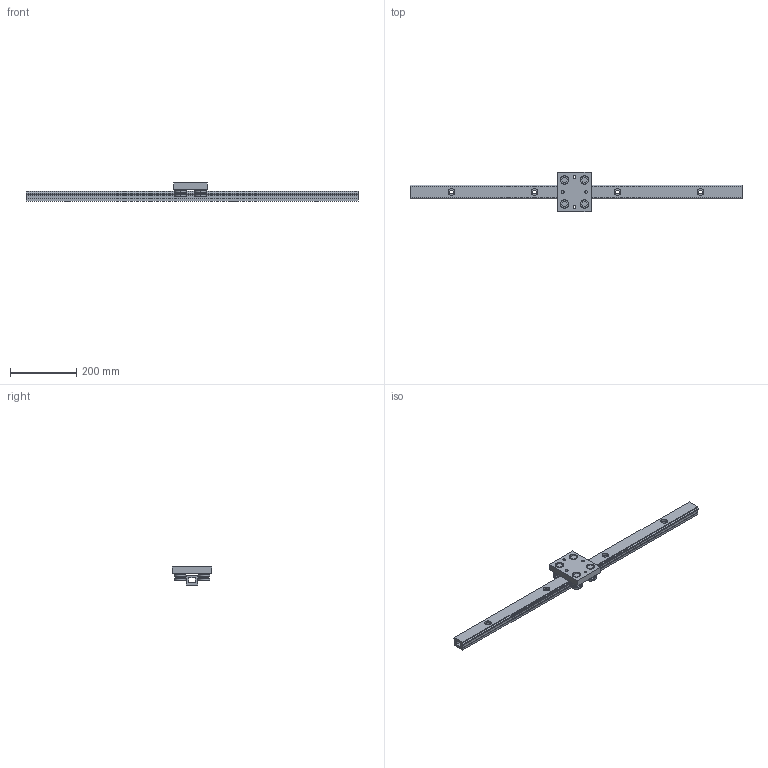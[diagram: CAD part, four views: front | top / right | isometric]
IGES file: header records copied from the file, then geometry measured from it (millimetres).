
Global section: file name: No Iges File Name specified; native system: AutoDesk Inventor R10; preprocessor: AutoDesk Inventor Iges Exporter R10; author: No Author specified; organization: No Organization specified; date: 20101224.114526; units: millimetre
Bounding box: 1000 x 120 x 54.3 mm (x, y, z)
Surface area: 267827.5 mm2 (no closed solid volume)
Topology: 0 solids, 0 shells, 182 faces, 1176 edges, 1176 vertices
Faces by surface type: bspline 182
